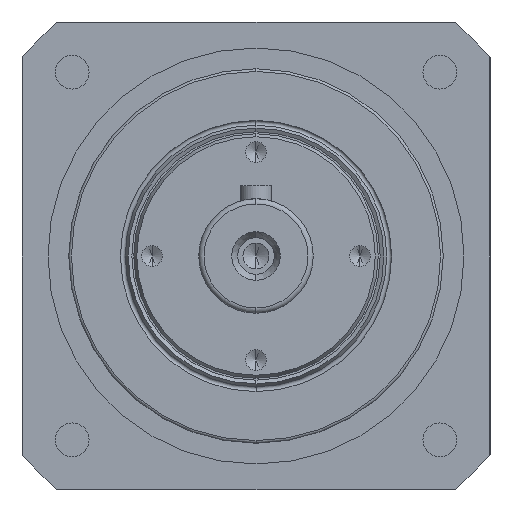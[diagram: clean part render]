
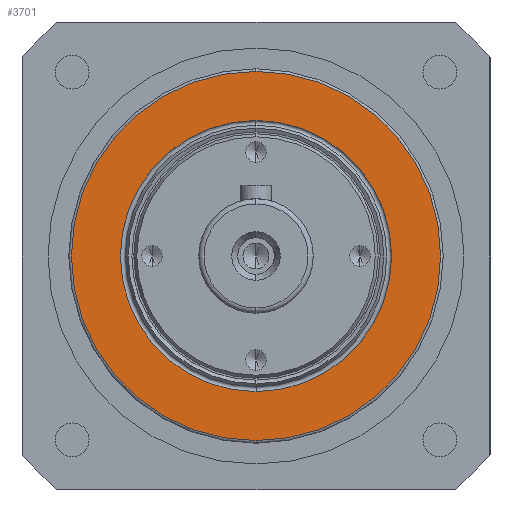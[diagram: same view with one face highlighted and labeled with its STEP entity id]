
A CAD part, left-side view. The second image highlights one B-rep face of the part: STEP entity #3701.
In plain terms, the highlighted planar face has unit normal (-1, 0, 0) as drawn and (0, -1, 0) by its records, which use the part's own axes.
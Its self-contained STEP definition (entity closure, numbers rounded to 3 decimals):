
#80 = CIRCLE ( 'NONE', #9155, 35.5 ) ;
#142 = DIRECTION ( 'NONE',  ( 0., 0., 1. ) ) ;
#152 = FACE_OUTER_BOUND ( 'NONE', #2366, .T. ) ;
#337 = DIRECTION ( 'NONE',  ( 0., 0., 1. ) ) ;
#676 = VERTEX_POINT ( 'NONE', #6199 ) ;
#802 = CIRCLE ( 'NONE', #7722, 35.5 ) ;
#808 = CIRCLE ( 'NONE', #1629, 26.073 ) ;
#1064 = ORIENTED_EDGE ( 'NONE', *, *, #1642, .F. ) ;
#1128 = DIRECTION ( 'NONE',  ( 0., 1., 0. ) ) ;
#1129 = EDGE_CURVE ( 'NONE', #676, #5798, #808, .T. ) ;
#1629 = AXIS2_PLACEMENT_3D ( 'NONE', #6777, #1128, #142 ) ;
#1642 = EDGE_CURVE ( 'NONE', #6486, #11027, #802, .T. ) ;
#2366 = EDGE_LOOP ( 'NONE', ( #1064, #11535 ) ) ;
#2402 = CARTESIAN_POINT ( 'NONE',  ( 0., 0., 0. ) ) ;
#3321 = CARTESIAN_POINT ( 'NONE',  ( 0., 0., 35.5 ) ) ;
#3361 = DIRECTION ( 'NONE',  ( 0., 0., 1. ) ) ;
#3701 = ADVANCED_FACE ( 'NONE', ( #11537, #152 ), #11787, .T. ) ;
#5222 = DIRECTION ( 'NONE',  ( 0., 1., 0. ) ) ;
#5236 = DIRECTION ( 'NONE',  ( 0., -1., 0. ) ) ;
#5798 = VERTEX_POINT ( 'NONE', #11619 ) ;
#6048 = DIRECTION ( 'NONE',  ( 0., 1., 0. ) ) ;
#6199 = CARTESIAN_POINT ( 'NONE',  ( 0., 0., 26.073 ) ) ;
#6486 = VERTEX_POINT ( 'NONE', #7778 ) ;
#6777 = CARTESIAN_POINT ( 'NONE',  ( 0., 0., 0. ) ) ;
#7568 = EDGE_CURVE ( 'NONE', #11027, #6486, #80, .T. ) ;
#7722 = AXIS2_PLACEMENT_3D ( 'NONE', #11678, #6048, #337 ) ;
#7778 = CARTESIAN_POINT ( 'NONE',  ( 0., 0., 35.5 ) ) ;
#8373 = AXIS2_PLACEMENT_3D ( 'NONE', #2402, #8961, #3361 ) ;
#8961 = DIRECTION ( 'NONE',  ( 0., 1., 0. ) ) ;
#9081 = ORIENTED_EDGE ( 'NONE', *, *, #11960, .T. ) ;
#9155 = AXIS2_PLACEMENT_3D ( 'NONE', #10852, #5222, #11819 ) ;
#9550 = CARTESIAN_POINT ( 'NONE',  ( 0., 0., -35.5 ) ) ;
#10355 = EDGE_LOOP ( 'NONE', ( #11793, #9081 ) ) ;
#10627 = CIRCLE ( 'NONE', #8373, 26.073 ) ;
#10767 = AXIS2_PLACEMENT_3D ( 'NONE', #3321, #5236, #11834 ) ;
#10852 = CARTESIAN_POINT ( 'NONE',  ( 0., 0., 0. ) ) ;
#11027 = VERTEX_POINT ( 'NONE', #9550 ) ;
#11535 = ORIENTED_EDGE ( 'NONE', *, *, #7568, .F. ) ;
#11537 = FACE_BOUND ( 'NONE', #10355, .T. ) ;
#11619 = CARTESIAN_POINT ( 'NONE',  ( 0., 0., -26.073 ) ) ;
#11678 = CARTESIAN_POINT ( 'NONE',  ( 0., 0., 0. ) ) ;
#11787 = PLANE ( 'NONE',  #10767 ) ;
#11793 = ORIENTED_EDGE ( 'NONE', *, *, #1129, .T. ) ;
#11819 = DIRECTION ( 'NONE',  ( 0., 0., 1. ) ) ;
#11834 = DIRECTION ( 'NONE',  ( 0., 0., -1. ) ) ;
#11960 = EDGE_CURVE ( 'NONE', #5798, #676, #10627, .T. ) ;
